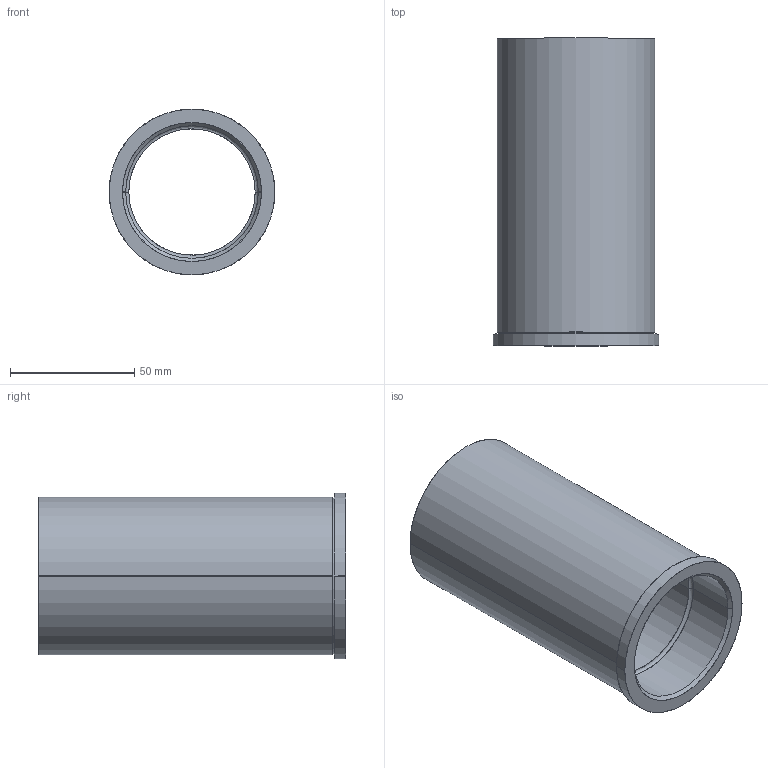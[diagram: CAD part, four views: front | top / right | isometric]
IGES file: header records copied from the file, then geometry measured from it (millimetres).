
Start section: SolidWorks IGES file using analytic representation for surfaces
Global section: file name: C:\Users\Ryan\Documents\PCS\Shoulder Bushings\BU-608.igs; native system: SolidWorks 2009; preprocessor: SolidWorks 2009; author: Ryan; date: 140226.220726; units: inch
Bounding box: 66.67 x 123.83 x 66.67 mm (x, y, z)
Surface area: 47506.1 mm2 (no closed solid volume)
Topology: 0 solids, 0 shells, 20 faces, 576 edges, 576 vertices
Faces by surface type: revolution 12, bspline 8
